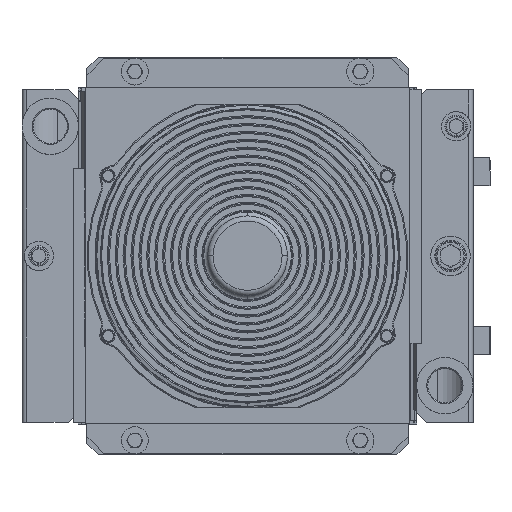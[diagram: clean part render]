
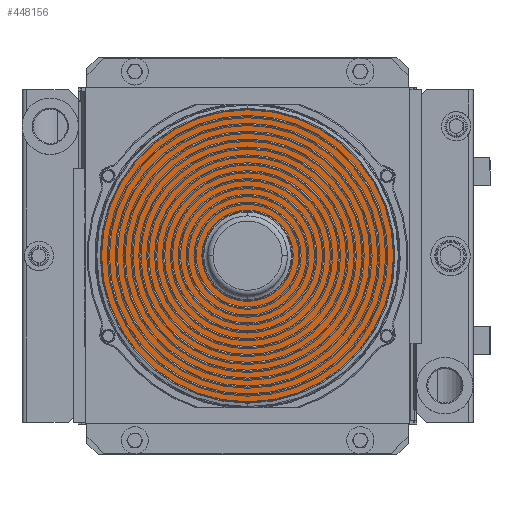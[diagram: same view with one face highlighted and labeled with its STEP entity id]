
A CAD part, top view. The second image highlights one B-rep face of the part: STEP entity #448156.
In plain terms, the highlighted planar face has unit normal (0, 0, 1).
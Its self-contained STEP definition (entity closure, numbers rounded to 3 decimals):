
#445826=CARTESIAN_POINT(' ',(144.247,292.23,31.5));
#445827=VERTEX_POINT(' ',#445826);
#446181=CARTESIAN_POINT(' ',(-144.247,292.23,31.5));
#446182=VERTEX_POINT(' ',#446181);
#446196=CARTESIAN_POINT(' ',(144.247,292.23,31.5));
#446201=DIRECTION(' ',(-1.,0.,0.));
#446206=VECTOR(' ',#446201,1.);
#446211=LINE(' ',#446196,#446206);
#446216=EDGE_CURVE(' ',#445827,#446182,#446211,.T.);
#446351=CARTESIAN_POINT(' ',(144.247,292.23,31.5));
#446356=DIRECTION(' ',(0.,-1.,0.));
#446361=VECTOR(' ',#446356,1.);
#446366=LINE(' ',#446351,#446361);
#446371=CARTESIAN_POINT(' ',(144.247,0.,31.5));
#446372=VERTEX_POINT(' ',#446371);
#446376=EDGE_CURVE(' ',#445827,#446372,#446366,.T.);
#447941=CARTESIAN_POINT(' ',(-144.247,292.23,31.5));
#447946=DIRECTION(' ',(0.,-1.,0.));
#447951=VECTOR(' ',#447946,1.);
#447956=LINE(' ',#447941,#447951);
#447961=CARTESIAN_POINT(' ',(-144.247,0.,31.5));
#447962=VERTEX_POINT(' ',#447961);
#447966=EDGE_CURVE(' ',#446182,#447962,#447956,.T.);
#448076=CARTESIAN_POINT(' ',(-144.247,0.,31.5));
#448081=DIRECTION(' ',(0.,0.,1.));
#448086=DIRECTION(' ',(1.,0.,0.));
#448091=AXIS2_PLACEMENT_3D(' ',#448076,#448081,#448086);
#448096=PLANE(' ',#448091);
#448101=ORIENTED_EDGE(' ',*,*,#446376,.F.);
#448106=ORIENTED_EDGE(' ',*,*,#446216,.T.);
#448111=ORIENTED_EDGE(' ',*,*,#447966,.T.);
#448116=CARTESIAN_POINT(' ',(144.247,0.,31.5));
#448121=DIRECTION(' ',(-1.,0.,0.));
#448126=VECTOR(' ',#448121,1.);
#448131=LINE(' ',#448116,#448126);
#448136=EDGE_CURVE(' ',#446372,#447962,#448131,.T.);
#448141=ORIENTED_EDGE(' ',*,*,#448136,.F.);
#448146=EDGE_LOOP(' ',(#448101,#448106,#448111,#448141));
#448151=FACE_OUTER_BOUND(' ',#448146,.T.);
#448156=ADVANCED_FACE(' ',(#448151),#448096,.T.);
